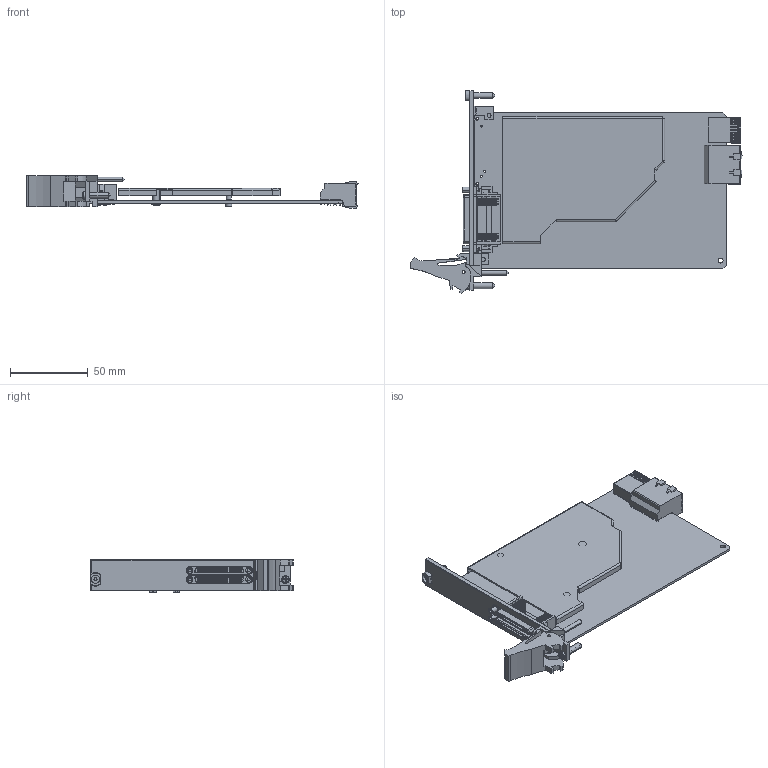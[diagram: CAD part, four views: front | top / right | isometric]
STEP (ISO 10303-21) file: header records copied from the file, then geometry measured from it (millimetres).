
FILE_DESCRIPTION((''),'2;1');
FILE_NAME('CU_PXIE-6355','2015-07-08T',('dkendric'),(''),'PRO/ENGINEER BY PARAMETRIC TECHNOLOGY CORPORATION, 2014000','PRO/ENGINEER BY PARAMETRIC TECHNOLOGY CORPORATION, 2014000','');
FILE_SCHEMA(('CONFIG_CONTROL_DESIGN'));
Products named in the file (1): CU_PXIE-6355
Bounding box: 213.82 x 130.5 x 20.78 mm (x, y, z)
Volume: 60335.8 mm3; surface area: 71777 mm2
Topology: 1 solids, 7 shells, 5434 faces, 14863 edges, 9701 vertices
Faces by surface type: plane 4750, cylinder 630, cone 34, sphere 14, torus 6
Entity records: 172551 total; most frequent: CARTESIAN_POINT 34478, ORIENTED_EDGE 29714, DIRECTION 26187, EDGE_CURVE 14857, VECTOR 12431, LINE 12431, VERTEX_POINT 9701, AXIS2_PLACEMENT_3D 6878
